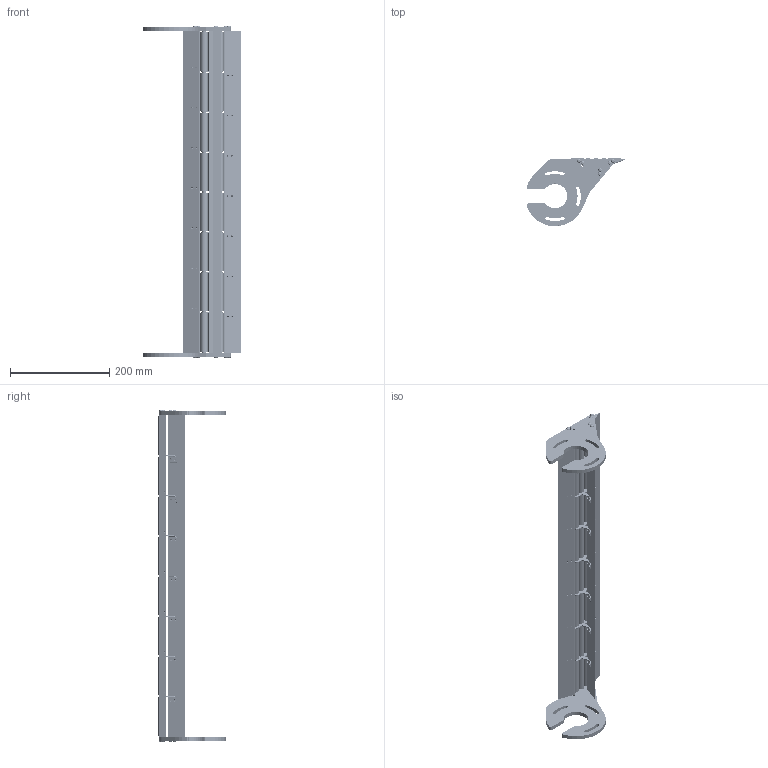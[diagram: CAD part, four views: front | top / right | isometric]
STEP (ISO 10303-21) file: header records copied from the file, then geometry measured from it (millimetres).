
FILE_DESCRIPTION (( 'STEP AP214' ), '1' );
FILE_NAME ('F2 2400 TGRI 2M.STEP', '2024-02-26T14:55:53', ( '' ), ( '' ), 'SwSTEP 2.0', 'SolidWorks 2022', '' );
FILE_SCHEMA (( 'AUTOMOTIVE_DESIGN' ));
Length unit declared in the file: millimetre
Products named in the file (13): TBHC 4X16; PSTI F2 2M; PSTI F2 2M Symétrie; ROULEMENT TGRI CAB-F2-R-HEF; GR F2 2400; AXE TGRI F2 2400; Galet + roulement F2 2400; ENTRETOISE TGRI CAB-F2-R-HEF; SA TGRI; F2 2400 TGRI 2M; SA TGRI + ENTRETOISE; PT-F2 - F2-2400 ALU; ENTRETOISE SA TGRI
Assembly tree (64 placements, depth 3):
  F2 2400 TGRI 2M
    PSTI F2 2M
    PSTI F2 2M Symétrie
    PT-F2 - F2-2400 ALU  x3
    AXE TGRI F2 2400  x3
    Galet + roulement F2 2400  x24
      GR F2 2400
      ROULEMENT TGRI CAB-F2-R-HEF
    ENTRETOISE TGRI CAB-F2-R-HEF  x6
    SA TGRI + ENTRETOISE  x7
      SA TGRI
      ENTRETOISE SA TGRI
    TBHC 4X16  x12
Bounding box: 198.67 x 136.6 x 667.78 mm (x, y, z)
Volume: 996666.3 mm3; surface area: 455958.9 mm2
Topology: 126 solids, 126 shells, 4744 faces, 10582 edges, 6239 vertices
Faces by surface type: cylinder 1581, cone 1564, plane 764, torus 709, sphere 91, bspline 35
Entity records: 18655 total; most frequent: CARTESIAN_POINT 3452, DIRECTION 3350, ORIENTED_EDGE 2742, EDGE_CURVE 1371, AXIS2_PLACEMENT_3D 1368, VERTEX_POINT 831, CIRCLE 719, EDGE_LOOP 654
